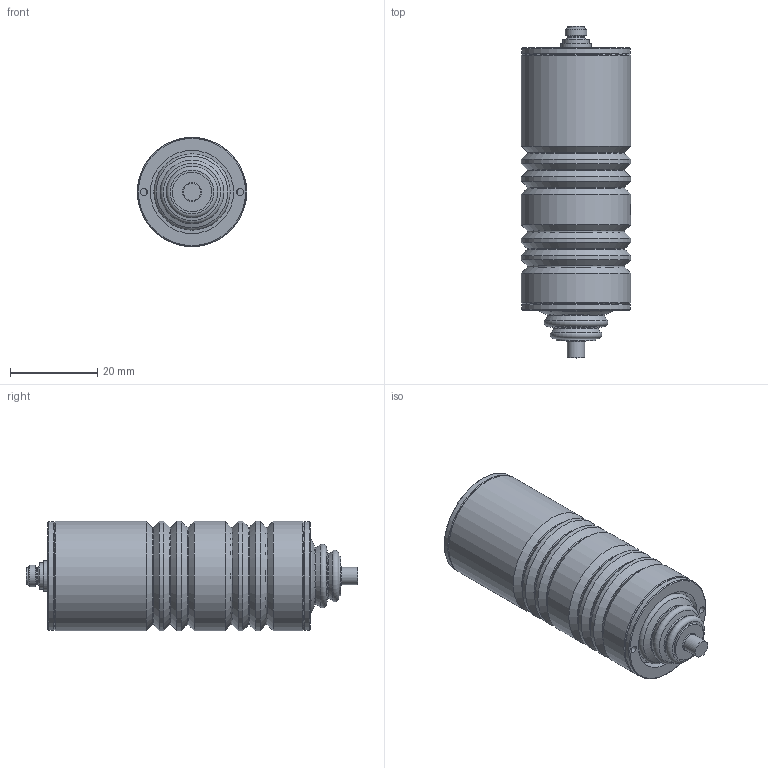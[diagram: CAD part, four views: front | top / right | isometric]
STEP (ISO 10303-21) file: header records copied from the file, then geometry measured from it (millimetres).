
FILE_DESCRIPTION(/* description */ ('Alibre Inc.'),/* implementation_level */ '2;1');
FILE_NAME(/* name */ 'export0',/* time_stamp */ '2018-11-19T09:43:52+01:00',/* author */ (''),/* organization */ (''),/* preprocessor_version */ 'ST-DEVELOPER v17',/* originating_system */ 'Alibre',/* authorisation */ '');
FILE_SCHEMA (('CONFIG_CONTROL_DESIGN'));
Length unit declared in the file: millimetre
Products named in the file (1): ID_1
Bounding box: 25 x 75.9 x 25 mm (x, y, z)
Volume: 10286.4 mm3; surface area: 12478.8 mm2
Topology: 1 solids, 4 shells, 420 faces, 1033 edges, 664 vertices
Faces by surface type: plane 161, bspline 139, cylinder 48, cone 46, torus 25, sphere 1
Full cylindrical faces by diameter (mm): 1.6 x4, 2 x1, 2.4 x1, 3.8 x2, 4 x1, 4.2 x1, 5 x1, 6 x1, 7 x1, 7.5 x1, 9 x1, 13.6 x1, 15 x2, 19 x2, 19.5 x1, 20 x2, 20.8 x1, 21 x4, 22.8 x1, 23 x2, 24.9 x2, 25 x7
Entity records: 12031 total; most frequent: CARTESIAN_POINT 3706, ORIENTED_EDGE 1832, DIRECTION 1090, EDGE_CURVE 916, VERTEX_POINT 652, FACE_BOUND 580, EDGE_LOOP 578, VECTOR 457
